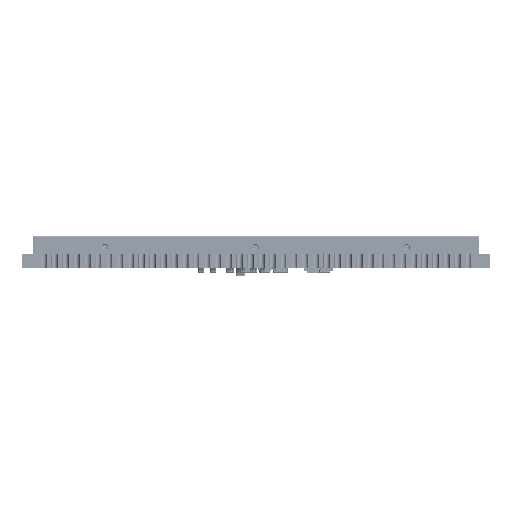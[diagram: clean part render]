
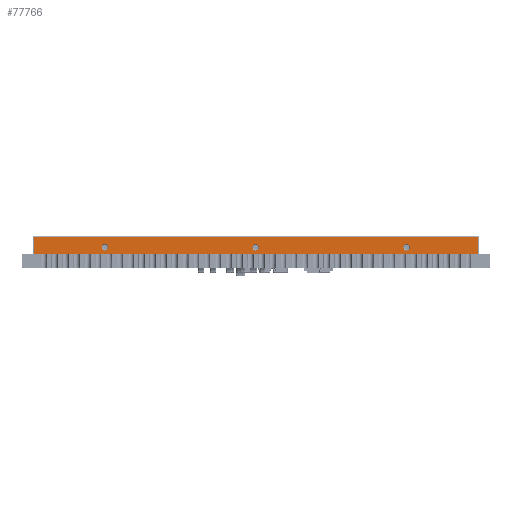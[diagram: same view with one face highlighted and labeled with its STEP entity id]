
A CAD part, front view. The second image highlights one B-rep face of the part: STEP entity #77766.
In plain terms, the highlighted planar face has unit normal (0, -1, 0).
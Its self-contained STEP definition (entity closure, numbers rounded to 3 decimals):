
#301 = CIRCLE ( 'NONE', #87617, 0.3 ) ;
#336 = VERTEX_POINT ( 'NONE', #33446 ) ;
#1556 = CARTESIAN_POINT ( 'NONE',  ( 140.585, 23.725, 1.05 ) ) ;
#3405 = CIRCLE ( 'NONE', #88158, 0.3 ) ;
#4733 = CARTESIAN_POINT ( 'NONE',  ( 106.625, 23.725, 1.7 ) ) ;
#10117 = EDGE_CURVE ( 'NONE', #149316, #56468, #93871, .T. ) ;
#10579 = CARTESIAN_POINT ( 'NONE',  ( 140.885, 23.725, 1.05 ) ) ;
#11241 = EDGE_LOOP ( 'NONE', ( #35790, #134958 ) ) ;
#11282 = DIRECTION ( 'NONE',  ( -1., 0., 0. ) ) ;
#11502 = FACE_BOUND ( 'NONE', #65380, .T. ) ;
#12283 = CARTESIAN_POINT ( 'NONE',  ( 113.165, 23.725, 1.05 ) ) ;
#14967 = ORIENTED_EDGE ( 'NONE', *, *, #10117, .F. ) ;
#15367 = DIRECTION ( 'NONE',  ( 1., 0., 0. ) ) ;
#18365 = CARTESIAN_POINT ( 'NONE',  ( 127.025, 23.725, 1.05 ) ) ;
#20325 = VERTEX_POINT ( 'NONE', #39295 ) ;
#21183 = CARTESIAN_POINT ( 'NONE',  ( 106.625, 23.725, 1.7 ) ) ;
#21787 = CARTESIAN_POINT ( 'NONE',  ( 127.325, 23.725, 1.05 ) ) ;
#24518 = CIRCLE ( 'NONE', #96944, 0.3 ) ;
#31021 = EDGE_CURVE ( 'NONE', #65353, #20325, #301, .T. ) ;
#33194 = ORIENTED_EDGE ( 'NONE', *, *, #83188, .T. ) ;
#33446 = CARTESIAN_POINT ( 'NONE',  ( 141.185, 23.725, 1.05 ) ) ;
#34757 = CARTESIAN_POINT ( 'NONE',  ( 113.165, 23.725, 1.05 ) ) ;
#35790 = ORIENTED_EDGE ( 'NONE', *, *, #31021, .T. ) ;
#39295 = CARTESIAN_POINT ( 'NONE',  ( 112.865, 23.725, 1.05 ) ) ;
#39481 = ORIENTED_EDGE ( 'NONE', *, *, #99169, .F. ) ;
#43805 = DIRECTION ( 'NONE',  ( 0., 1., 0. ) ) ;
#45077 = ORIENTED_EDGE ( 'NONE', *, *, #96043, .T. ) ;
#46896 = VERTEX_POINT ( 'NONE', #21787 ) ;
#48129 = LINE ( 'NONE', #144330, #58426 ) ;
#50557 = DIRECTION ( 'NONE',  ( 0., 0., -1. ) ) ;
#50863 = CARTESIAN_POINT ( 'NONE',  ( 127.025, 23.725, 1.05 ) ) ;
#54037 = LINE ( 'NONE', #148737, #133652 ) ;
#56468 = VERTEX_POINT ( 'NONE', #112366 ) ;
#57109 = DIRECTION ( 'NONE',  ( 1., 0., 0. ) ) ;
#58426 = VECTOR ( 'NONE', #84063, 1000. ) ;
#65353 = VERTEX_POINT ( 'NONE', #113029 ) ;
#65380 = EDGE_LOOP ( 'NONE', ( #45077, #73645 ) ) ;
#65385 = EDGE_CURVE ( 'NONE', #143836, #46896, #95507, .T. ) ;
#65952 = CIRCLE ( 'NONE', #85913, 0.3 ) ;
#66097 = DIRECTION ( 'NONE',  ( 0., 1., 0. ) ) ;
#66326 = EDGE_CURVE ( 'NONE', #106274, #336, #3405, .T. ) ;
#71963 = DIRECTION ( 'NONE',  ( 0., 1., 0. ) ) ;
#73645 = ORIENTED_EDGE ( 'NONE', *, *, #65385, .T. ) ;
#77766 = ADVANCED_FACE ( 'NONE', ( #142159, #118667, #11502, #106909 ), #109928, .T. ) ;
#80183 = DIRECTION ( 'NONE',  ( 0., 1., 0. ) ) ;
#80523 = LINE ( 'NONE', #128275, #109232 ) ;
#81880 = ORIENTED_EDGE ( 'NONE', *, *, #111690, .T. ) ;
#82434 = DIRECTION ( 'NONE',  ( 0., 1., 0. ) ) ;
#83188 = EDGE_CURVE ( 'NONE', #336, #106274, #24518, .T. ) ;
#83943 = ORIENTED_EDGE ( 'NONE', *, *, #145691, .F. ) ;
#84063 = DIRECTION ( 'NONE',  ( -1., 0., 0. ) ) ;
#85913 = AXIS2_PLACEMENT_3D ( 'NONE', #50863, #71963, #119743 ) ;
#87617 = AXIS2_PLACEMENT_3D ( 'NONE', #12283, #122550, #15367 ) ;
#88158 = AXIS2_PLACEMENT_3D ( 'NONE', #102433, #43805, #139238 ) ;
#88453 = DIRECTION ( 'NONE',  ( 0., 0., -1. ) ) ;
#93871 = LINE ( 'NONE', #21183, #149693 ) ;
#95507 = CIRCLE ( 'NONE', #97971, 0.3 ) ;
#96043 = EDGE_CURVE ( 'NONE', #46896, #143836, #65952, .T. ) ;
#96073 = DIRECTION ( 'NONE',  ( 0., 0., -1. ) ) ;
#96944 = AXIS2_PLACEMENT_3D ( 'NONE', #10579, #80183, #115410 ) ;
#96991 = ORIENTED_EDGE ( 'NONE', *, *, #66326, .T. ) ;
#97971 = AXIS2_PLACEMENT_3D ( 'NONE', #18365, #66097, #113813 ) ;
#99169 = EDGE_CURVE ( 'NONE', #56468, #126743, #80523, .T. ) ;
#102433 = CARTESIAN_POINT ( 'NONE',  ( 140.885, 23.725, 1.05 ) ) ;
#103919 = VERTEX_POINT ( 'NONE', #148338 ) ;
#106274 = VERTEX_POINT ( 'NONE', #1556 ) ;
#106909 = FACE_OUTER_BOUND ( 'NONE', #112007, .T. ) ;
#109232 = VECTOR ( 'NONE', #96073, 1000. ) ;
#109928 = PLANE ( 'NONE',  #118470 ) ;
#110016 = DIRECTION ( 'NONE',  ( 0., -1., 0. ) ) ;
#111690 = EDGE_CURVE ( 'NONE', #149316, #103919, #54037, .T. ) ;
#112007 = EDGE_LOOP ( 'NONE', ( #83943, #39481, #14967, #81880 ) ) ;
#112366 = CARTESIAN_POINT ( 'NONE',  ( 147.425, 23.725, 1.7 ) ) ;
#113029 = CARTESIAN_POINT ( 'NONE',  ( 113.465, 23.725, 1.05 ) ) ;
#113813 = DIRECTION ( 'NONE',  ( -1., 0., 0. ) ) ;
#115410 = DIRECTION ( 'NONE',  ( 1., 0., 0. ) ) ;
#118470 = AXIS2_PLACEMENT_3D ( 'NONE', #121745, #110016, #50557 ) ;
#118667 = FACE_BOUND ( 'NONE', #11241, .T. ) ;
#119743 = DIRECTION ( 'NONE',  ( 1., 0., 0. ) ) ;
#121745 = CARTESIAN_POINT ( 'NONE',  ( 106.525, 23.725, 0. ) ) ;
#122550 = DIRECTION ( 'NONE',  ( 0., 1., 0. ) ) ;
#126743 = VERTEX_POINT ( 'NONE', #143193 ) ;
#128238 = CARTESIAN_POINT ( 'NONE',  ( 126.725, 23.725, 1.05 ) ) ;
#128275 = CARTESIAN_POINT ( 'NONE',  ( 147.425, 23.725, 1.7 ) ) ;
#130819 = CIRCLE ( 'NONE', #153392, 0.3 ) ;
#133652 = VECTOR ( 'NONE', #88453, 1000. ) ;
#134958 = ORIENTED_EDGE ( 'NONE', *, *, #145488, .T. ) ;
#139238 = DIRECTION ( 'NONE',  ( -1., 0., 0. ) ) ;
#142159 = FACE_BOUND ( 'NONE', #151197, .T. ) ;
#143193 = CARTESIAN_POINT ( 'NONE',  ( 147.425, 23.725, 0.1 ) ) ;
#143836 = VERTEX_POINT ( 'NONE', #128238 ) ;
#144330 = CARTESIAN_POINT ( 'NONE',  ( 147.425, 23.725, 0.1 ) ) ;
#145488 = EDGE_CURVE ( 'NONE', #20325, #65353, #130819, .T. ) ;
#145691 = EDGE_CURVE ( 'NONE', #126743, #103919, #48129, .T. ) ;
#148338 = CARTESIAN_POINT ( 'NONE',  ( 106.625, 23.725, 0.1 ) ) ;
#148737 = CARTESIAN_POINT ( 'NONE',  ( 106.625, 23.725, 1.7 ) ) ;
#149316 = VERTEX_POINT ( 'NONE', #4733 ) ;
#149693 = VECTOR ( 'NONE', #57109, 1000. ) ;
#151197 = EDGE_LOOP ( 'NONE', ( #33194, #96991 ) ) ;
#153392 = AXIS2_PLACEMENT_3D ( 'NONE', #34757, #82434, #11282 ) ;
